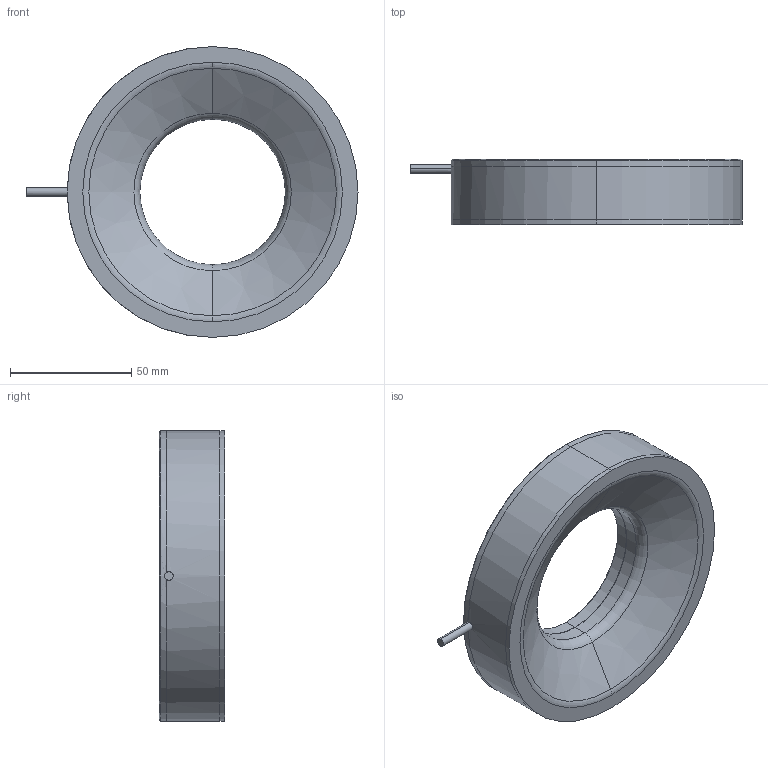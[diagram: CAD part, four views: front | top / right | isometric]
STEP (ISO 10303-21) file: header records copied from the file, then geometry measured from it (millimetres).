
FILE_DESCRIPTION((''),'2;1');
FILE_NAME('P-RL-120-60_3D','2021-10-26T',('hyj'),(''),'PRO/ENGINEER BY PARAMETRIC TECHNOLOGY CORPORATION, 2010100','PRO/ENGINEER BY PARAMETRIC TECHNOLOGY CORPORATION, 2010100','');
FILE_SCHEMA(('CONFIG_CONTROL_DESIGN'));
Length unit declared in the file: millimetre
Products named in the file (1): P-RL-120-60_3D
Bounding box: 137 x 27 x 120 mm (x, y, z)
Volume: 145504.1 mm3; surface area: 51338.7 mm2
Topology: 1 solids, 1 shells, 71 faces, 155 edges, 88 vertices
Faces by surface type: cylinder 30, cone 18, plane 15, torus 8
Entity records: 1944 total; most frequent: DIRECTION 372, CARTESIAN_POINT 326, ORIENTED_EDGE 294, AXIS2_PLACEMENT_3D 156, EDGE_CURVE 147, VERTEX_POINT 88, CIRCLE 85, EDGE_LOOP 83
